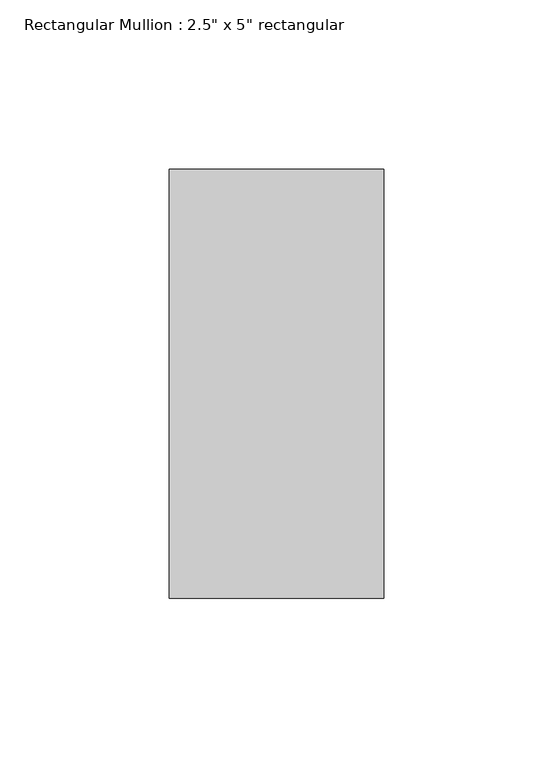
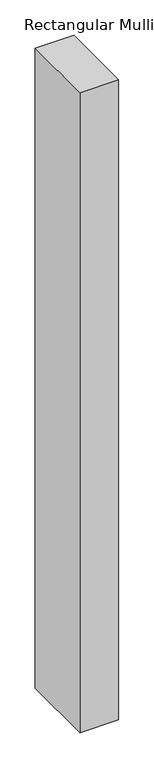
"""IFC4 building model written with IfcOpenShell, lengths in millimetres: member geometry."""

import ifcopenshell
import ifcopenshell.guid

model = None  # the IFC model being written
_history = None  # IfcOwnerHistory: only IFC2X3 demands one
_inside = {}  # id of a spatial element -> (the spatial element, [elements in it])
_under = {}  # id of a project, library or spatial element -> (it, [spatial elements below it])
_declared = {}  # id of a project -> (the project, [libraries it declares])
_typed = {}  # id of a type object -> (the type object, [elements of that type])
_made_of = {}  # id of a material, layer set ... -> (it, [elements and type objects made of it])


def new_model(schema):
    """Start an empty IFC model of exactly this schema.

    Asked for "IFC4X3", IfcOpenShell would pick the latest addendum, in which some entities
    have other attributes; the version numbers below select the first issue.
    IFC2X3 requires an IfcOwnerHistory on every rooted entity: one is made here for all.
    """
    global model, _history
    if schema == "IFC4X3":
        model = ifcopenshell.file(schema_version=(4, 3, 0, 0))
    else:
        model = ifcopenshell.file(schema=schema)
    _inside.clear()
    _under.clear()
    _declared.clear()
    _typed.clear()
    _made_of.clear()
    _history = None
    if model.schema == "IFC2X3":
        org = make("IfcOrganization", Name="unknown")
        user = make(
            "IfcPersonAndOrganization",
            ThePerson=make("IfcPerson", FamilyName="unknown"),
            TheOrganization=org,
        )
        app = make(
            "IfcApplication",
            ApplicationDeveloper=org,
            Version="unknown",
            ApplicationFullName="unknown",
            ApplicationIdentifier="unknown",
        )
        _history = make(
            "IfcOwnerHistory",
            OwningUser=user,
            OwningApplication=app,
            ChangeAction="ADDED",
            CreationDate=0,
        )
    return model


def make(cls, **values):
    """One entity of the class cls with the attributes given. An attribute that is None is left unset."""
    return model.create_entity(
        cls, **{name: value for name, value in values.items() if value is not None}
    )


def rooted(cls, **values):
    """An entity with a GlobalId (a new one), such as an element, a storey or a relation."""
    return make(cls, GlobalId=ifcopenshell.guid.new(), OwnerHistory=_history, **values)


def si_unit(unit_type, name, prefix=None):
    """IfcSIUnit, for example si_unit("LENGTHUNIT", "METRE", prefix="MILLI")."""
    return make("IfcSIUnit", UnitType=unit_type, Prefix=prefix, Name=name)


def assignment(units):
    """IfcUnitAssignment: the units of a project."""
    return None if units is None else make("IfcUnitAssignment", Units=units)


def point(xyz):
    """IfcCartesianPoint."""
    return None if xyz is None else make("IfcCartesianPoint", Coordinates=xyz)


def direction(xyz):
    """IfcDirection."""
    return None if xyz is None else make("IfcDirection", DirectionRatios=xyz)


def frame(location, z_axis=None, x_axis=None):
    """IfcAxis2Placement3D, a coordinate frame: its origin and axes. An axis left out is left unset."""
    return make(
        "IfcAxis2Placement3D",
        Location=point(location),
        Axis=direction(z_axis),
        RefDirection=direction(x_axis),
    )


def origin():
    """The frame at (0, 0, 0) with its axes left unset."""
    return frame((0.0, 0.0, 0.0))


def place(relative_to, where):
    """IfcLocalPlacement: puts the frame where relative to a parent placement (None: the world)."""
    return make(
        "IfcLocalPlacement", PlacementRelTo=relative_to, RelativePlacement=where
    )


def context(
    kind, dimensions, precision=None, world=None, true_north=None, identifier=None
):
    """IfcGeometricRepresentationContext, for example the 3D "Model" context."""
    return make(
        "IfcGeometricRepresentationContext",
        ContextIdentifier=identifier,
        ContextType=kind,
        CoordinateSpaceDimension=dimensions,
        Precision=precision,
        WorldCoordinateSystem=world,
        TrueNorth=true_north,
    )


def project(units=None, contexts=None):
    """IfcProject with its units and contexts."""
    return rooted(
        "IfcProject",
        Name="project",
        RepresentationContexts=contexts,
        UnitsInContext=assignment(units),
    )


def spatial(cls, under=None, at=None, **own):
    """A site, building, storey or space (cls), placed at a placement, below another one or the project."""
    s = rooted(cls, ObjectPlacement=at, **own)
    if under is not None:
        _under.setdefault(under.id(), (under, []))[1].append(s)
    return s


def polyline(points):
    """IfcPolyline through the points."""
    return make("IfcPolyline", Points=[point(p) for p in points])


def outline(outer, holes=None, kind="AREA"):
    """IfcArbitraryClosedProfileDef: a profile drawn as a closed curve; with holes, ...WithVoids."""
    if holes is None:
        return make("IfcArbitraryClosedProfileDef", ProfileType=kind, OuterCurve=outer)
    return make(
        "IfcArbitraryProfileDefWithVoids",
        ProfileType=kind,
        OuterCurve=outer,
        InnerCurves=holes,
    )


def extrude(swept, where, along, depth):
    """IfcExtrudedAreaSolid: the profile swept, set in the frame where, extruded along a direction by depth."""
    return make(
        "IfcExtrudedAreaSolid",
        SweptArea=swept,
        Position=where,
        ExtrudedDirection=direction(along),
        Depth=depth,
    )


def shape(context_of_items, identifier, shape_type, items):
    """IfcShapeRepresentation: the items that make up one representation, for example the "Body"."""
    return make(
        "IfcShapeRepresentation",
        ContextOfItems=context_of_items,
        RepresentationIdentifier=identifier,
        RepresentationType=shape_type,
        Items=items,
    )


def source(mapping_origin, context_of_items, identifier, shape_type, items):
    """IfcRepresentationMap: a shape defined once, which mapped items show again and again."""
    return make(
        "IfcRepresentationMap",
        MappingOrigin=mapping_origin,
        MappedRepresentation=shape(context_of_items, identifier, shape_type, items),
    )


def transform(
    local_origin,
    x_axis=None,
    y_axis=None,
    z_axis=None,
    scale=None,
    scale2=None,
    scale3=None,
    uniform=True,
):
    """IfcCartesianTransformationOperator3D, or its non-uniform kind. x_axis, y_axis, z_axis: its Axis1, 2, 3."""
    if uniform:
        return make(
            "IfcCartesianTransformationOperator3D",
            Axis1=direction(x_axis),
            Axis2=direction(y_axis),
            LocalOrigin=point(local_origin),
            Scale=scale,
            Axis3=direction(z_axis),
        )
    return make(
        "IfcCartesianTransformationOperator3DnonUniform",
        Axis1=direction(x_axis),
        Axis2=direction(y_axis),
        LocalOrigin=point(local_origin),
        Scale=scale,
        Axis3=direction(z_axis),
        Scale2=scale2,
        Scale3=scale3,
    )


def mapped(mapping_source, mapping_target):
    """IfcMappedItem: shows the shape of a source again, moved by a transform."""
    return make(
        "IfcMappedItem", MappingSource=mapping_source, MappingTarget=mapping_target
    )


def made_of(thing, what):
    """Note that an element or type object is made of a material, layer set ...; save() writes the relation."""
    if what is not None:
        _made_of.setdefault(what.id(), (what, []))[1].append(thing)
    return thing


def element(
    cls,
    number,
    at=None,
    inside=None,
    cuts=None,
    type_object=None,
    material=None,
    context=None,
    identifier="Body",
    shape_type=None,
    held_by="IfcProductDefinitionShape",
    body=None,
    shapes=None,
    **own,
):
    """One element of the class cls, such as IfcWall. Its Tag is "e" and its number.

    at: its placement. inside: the storey or other place that contains it. cuts: it is an
    opening in that element (IfcRelVoidsElement). A single representation is given by context,
    identifier, shape_type and body (its items); several are given by shapes. held_by: the class
    of the entity that holds the representations. save() writes the other relations.
    """
    e = rooted(cls, Tag="e%d" % number, ObjectPlacement=at, **own)
    if body is not None:
        shapes = [shape(context, identifier, shape_type, body)]
    if shapes is not None:
        e.Representation = make(held_by, Representations=shapes)
    if inside is not None:
        _inside.setdefault(inside.id(), (inside, []))[1].append(e)
    if cuts is not None:
        rooted(
            "IfcRelVoidsElement", RelatingBuildingElement=cuts, RelatedOpeningElement=e
        )
    if type_object is not None:
        _typed.setdefault(type_object.id(), (type_object, []))[1].append(e)
    return made_of(e, material)


def aggregate(whole, parts):
    """IfcRelAggregates: a whole, such as a stair, and the parts it consists of."""
    return rooted("IfcRelAggregates", RelatingObject=whole, RelatedObjects=parts)


def save(model, path):
    """Write the relations noted so far, then the file.

    IfcRelAggregates (storeys below a building ...), IfcRelContainedInSpatialStructure (elements
    in a storey), IfcRelDefinesByType, IfcRelAssociatesMaterial and IfcRelDeclares: one each for
    every whole, place, type object, material and project.
    """
    for whole, parts in _under.values():
        aggregate(whole, parts)
    for where, things in _inside.values():
        rooted(
            "IfcRelContainedInSpatialStructure",
            RelatedElements=things,
            RelatingStructure=where,
        )
    for kind, things in _typed.values():
        rooted("IfcRelDefinesByType", RelatedObjects=things, RelatingType=kind)
    for what, things in _made_of.values():
        rooted("IfcRelAssociatesMaterial", RelatedObjects=things, RelatingMaterial=what)
    for by, libraries in _declared.values():
        rooted("IfcRelDeclares", RelatingContext=by, RelatedDefinitions=libraries)
    model.write(path)


def member_ca1d4844(model_context):
    return source(origin(), model_context, "Body", "SweptSolid", [
        extrude(outline(polyline([(0.0, 50.8), (0.0, -76.2), (-63.5, -76.2), (-63.5, 50.8), (0.0, 50.8)])), frame((0.0, 0.0, -1107.28125), z_axis=(0.0, 0.0, 1.0), x_axis=(1.0, 0.0, 0.0)), (0.0, 0.0, 1.0), 1107.28125),
    ])


if __name__ == "__main__":
    model = new_model("IFC4")
    model_context = context("Model", 3, world=origin())
    ifc_project = project(units=[si_unit("LENGTHUNIT", "METRE", prefix="MILLI")], contexts=[model_context])
    site = spatial("IfcSite", under=ifc_project)
    building = spatial("IfcBuilding", under=site)
    placement = place(None, origin())
    member_shape = member_ca1d4844(model_context)
    element("IfcMember", 1, ObjectType="Rectangular Mullion : 2.5\" x 5\" rectangular", at=placement, inside=building, context=model_context, shape_type="MappedRepresentation", body=[
        mapped(member_shape, transform((0.0, 0.0, 0.0), x_axis=(1.0, 0.0, 0.0), y_axis=(0.0, 1.0, 0.0), z_axis=(0.0, 0.0, 1.0))),
    ])
    save(model, "model.ifc")
